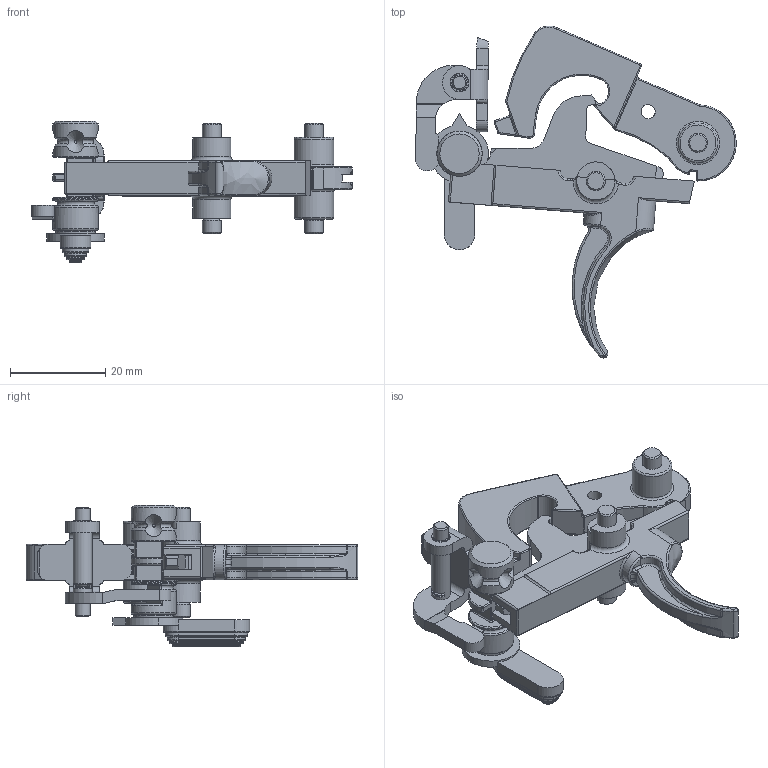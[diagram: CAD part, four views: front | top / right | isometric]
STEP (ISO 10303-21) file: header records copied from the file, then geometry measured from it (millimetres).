
FILE_DESCRIPTION(/* description */ (''),/* implementation_level */ '2;1');
FILE_NAME(/* name */ 'D:\Downloads\M16 FCG\M16 FCG Fosscad Semi Auto Hammer Cocked Trigger Pulled.stp',/* time_stamp */ '2019-01-20T19:56:32-06:00',/* author */ ('johne'),/* organization */ (''),/* preprocessor_version */ 'ST-DEVELOPER v16.13',/* originating_system */ 'Autodesk Inventor 2018',/* authorisation */ '');
FILE_SCHEMA (('AUTOMOTIVE_DESIGN { 1 0 10303 214 3 1 1 }'));
Length unit declared in the file: inch
Products named in the file (9): M16 FCG Fosscad; M16 Disco V2; Auto Sear Pin; Selector M16 V2; Auto Sear Bushing; Auto Sear; Auto Trigger; M16 Hammer V6; Hammer Pin
Assembly tree (9 placements, depth 2):
  M16 FCG Fosscad
    M16 Disco V2
    Auto Sear Pin
    Selector M16 V2
    Auto Sear Bushing
    Auto Sear
    Auto Trigger
    M16 Hammer V6
    Hammer Pin  x2
Bounding box: 67.14 x 69.57 x 29.74 mm (x, y, z)
Volume: 12147.6 mm3; surface area: 11227.7 mm2
Topology: 10 solids, 10 shells, 591 faces, 1439 edges, 856 vertices
Faces by surface type: cylinder 206, plane 173, torus 101, bspline 70, sphere 25, cone 16
Full cylindrical faces by diameter (mm): 2.946 x1, 3.023 x1, 3.124 x3, 3.188 x1, 3.95 x2, 3.962 x3, 3.969 x6, 4.013 x2, 4.216 x1, 7.986 x2, 8.255 x1, 8.28 x2, 9.474 x4
Entity records: 26117 total; most frequent: CARTESIAN_POINT 12580, DIRECTION 2848, ORIENTED_EDGE 2680, EDGE_CURVE 1340, AXIS2_PLACEMENT_3D 1142, VERTEX_POINT 831, EDGE_LOOP 659, FACE_OUTER_BOUND 582
